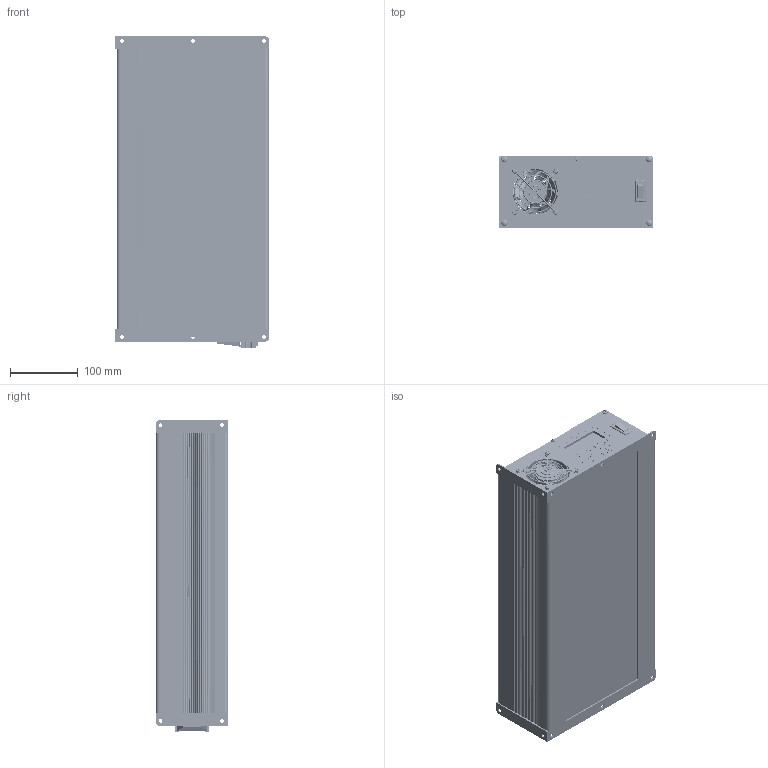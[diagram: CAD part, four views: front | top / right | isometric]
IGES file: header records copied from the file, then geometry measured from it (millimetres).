
Global section: file name: $2021.09.30_TX Controller_양산용_Shrinkwrap_1; native system: Autodesk Inventor 2021; preprocessor: unknown; author: eunsol jang; date: 20220119.141620; units: inch
Bounding box: 227 x 107 x 459.79 mm (x, y, z)
Volume: 1179809.1 mm3; surface area: 829470.2 mm2
Topology: 13 solids, 17 shells, 7854 faces, 21766 edges, 14346 vertices
Faces by surface type: bspline 7854
